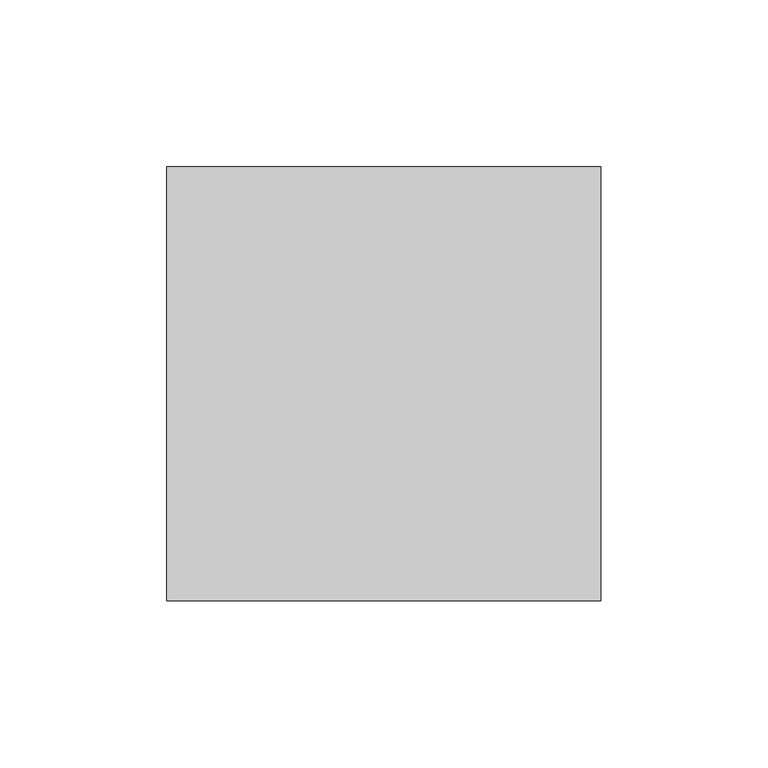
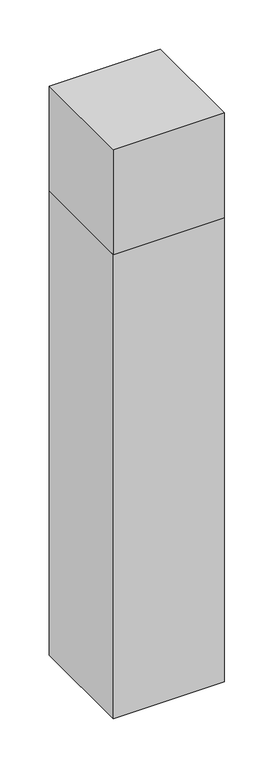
"""IFC4 building model written with IfcOpenShell, lengths in millimetres: light fixture geometry, Iluminação de caminho - Poste quadrado 1 : Iluminação de caminho - Poste quadrado 1."""

from ifc_helpers import new_model, si_unit, origin, origin_with_axes, place, context, project, spatial, polyline, outline, extrude, faceted_brep, source, transform, mapped, element, save


def light_fixture_30efc9ad(model_context):
    return source(origin(), model_context, "Body", "SolidModel", [
        faceted_brep([(65.0, 65.0, 705.0), (-65.0, 65.0, 705.0), (-65.0, -65.0, 705.0), (65.0, -65.0, 705.0), (63.0, 63.0, 703.0), (63.0, -63.0, 703.0), (-63.0, -63.0, 703.0), (-63.0, 63.0, 703.0), (65.0, 65.0, 575.0), (65.0, -65.0, 575.0), (-65.0, -65.0, 575.0), (-65.0, 65.0, 575.0), (63.0, 63.0, 575.0), (-63.0, 63.0, 575.0), (-63.0, -63.0, 575.0), (63.0, -63.0, 575.0)], [[[0, 1, 2, 3]], [[4, 5, 6, 7]], [[8, 9, 10, 11], [12, 13, 14, 15]], [[1, 0, 8, 11]], [[2, 1, 11, 10]], [[3, 2, 10, 9]], [[0, 3, 9, 8]], [[12, 15, 5, 4]], [[15, 14, 6, 5]], [[14, 13, 7, 6]], [[13, 12, 4, 7]]]),
        extrude(outline(polyline([(65.0, -65.0), (-65.0, -65.0), (-65.0, 65.0), (65.0, 65.0), (65.0, -65.0)])), origin_with_axes(), (0.0, 0.0, 1.0), 575.0),
    ])


if __name__ == "__main__":
    model = new_model("IFC4")
    model_context = context("Model", 3, world=origin())
    ifc_project = project(units=[si_unit("LENGTHUNIT", "METRE", prefix="MILLI")], contexts=[model_context])
    site = spatial("IfcSite", under=ifc_project)
    building = spatial("IfcBuilding", under=site)
    placement = place(None, origin())
    light_fixture_shape = light_fixture_30efc9ad(model_context)
    element("IfcLightFixture", 1, ObjectType="Iluminação de caminho - Poste quadrado 1 : Iluminação de caminho - Poste quadrado 1", at=placement, inside=building, context=model_context, shape_type="MappedRepresentation", body=[
        mapped(light_fixture_shape, transform((0.0, 0.0, 0.0), x_axis=(1.0, 0.0, 0.0), y_axis=(0.0, 1.0, 0.0), z_axis=(0.0, 0.0, 1.0))),
    ])
    save(model, "model.ifc")
